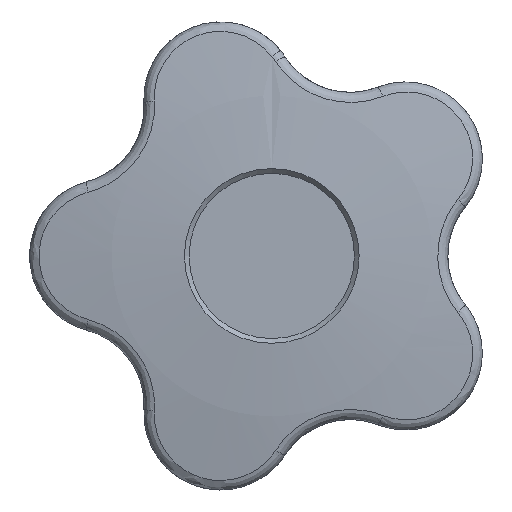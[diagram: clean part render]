
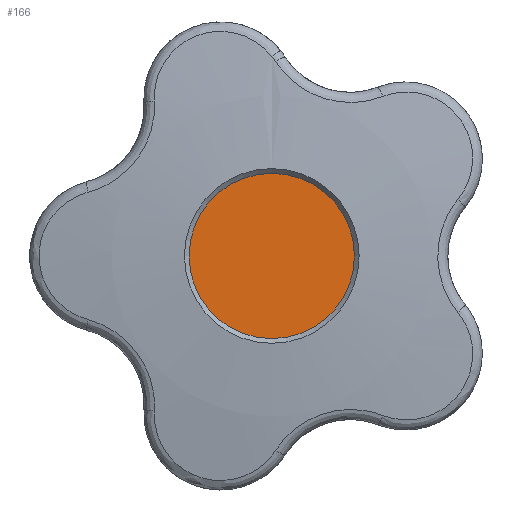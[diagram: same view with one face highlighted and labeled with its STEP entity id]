
A CAD part, left-side view. The second image highlights one B-rep face of the part: STEP entity #166.
In plain terms, the highlighted planar face has unit normal (-1, 0, 0).
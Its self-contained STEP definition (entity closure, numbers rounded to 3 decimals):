
#166=ADVANCED_FACE('',(#1288),#1290,.T.);
#1288=FACE_BOUND('',#1289,.T.);
#1289=EDGE_LOOP('',(#1589));
#1290=PLANE('',#1291);
#1291=AXIS2_PLACEMENT_3D('',#1292,#1293,#1294);
#1292=CARTESIAN_POINT('',(1.,0.,0.));
#1293=DIRECTION('',(-1.,0.,0.));
#1294=DIRECTION('',(0.,0.,-1.));
#1589=ORIENTED_EDGE('',*,*,#1757,.T.);
#1757=EDGE_CURVE('',#1876,#1876,#1877,.T.);
#1876=VERTEX_POINT('',#2897);
#1877=CIRCLE('',#2898,10.75);
#2897=CARTESIAN_POINT('',(1.,0.,-10.75));
#2898=AXIS2_PLACEMENT_3D('',#2899,#2900,#2901);
#2899=CARTESIAN_POINT('',(1.,0.,0.));
#2900=DIRECTION('',(-1.,0.,0.));
#2901=DIRECTION('',(0.,0.,-1.));
